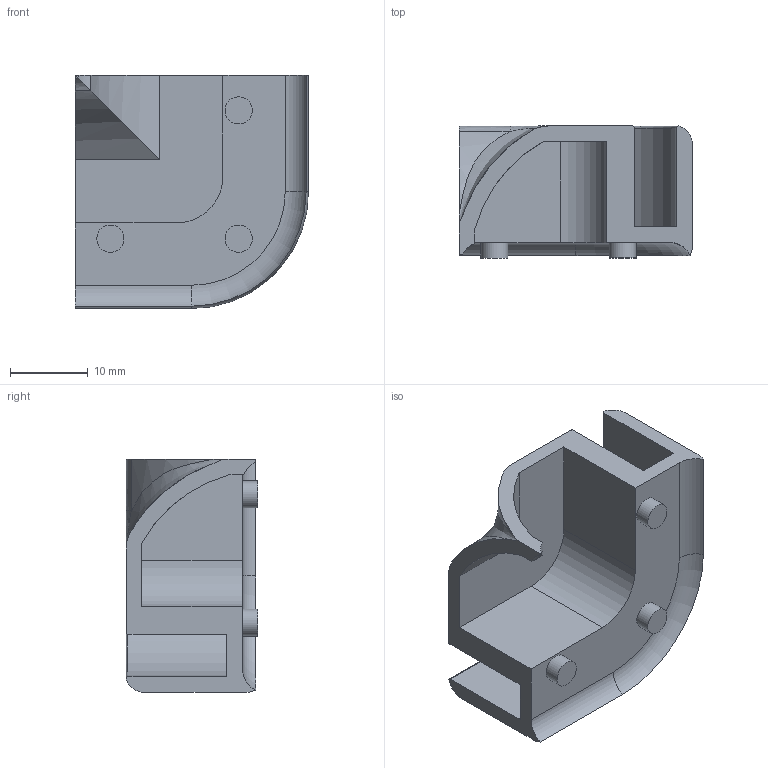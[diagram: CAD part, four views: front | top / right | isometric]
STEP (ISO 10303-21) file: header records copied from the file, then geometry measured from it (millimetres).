
FILE_DESCRIPTION (( 'STEP AP214' ), '1' );
FILE_NAME ('L15854.step', '2024-12-03T16:20:14', ( '' ), ( '' ), 'SwSTEP 2.0', 'SolidWorks 2023', '' );
FILE_SCHEMA (( 'AUTOMOTIVE_DESIGN' ));
Length unit declared in the file: millimetre
Products named in the file (1): L15854
Bounding box: 30.02 x 17 x 30.02 mm (x, y, z)
Volume: 4979 mm3; surface area: 4656.6 mm2
Topology: 1 solids, 1 shells, 53 faces, 128 edges, 80 vertices
Faces by surface type: cylinder 25, plane 19, torus 5, bspline 4
Full cylindrical faces by diameter (mm): 3.5 x3
Entity records: 1944 total; most frequent: CARTESIAN_POINT 712, DIRECTION 252, ORIENTED_EDGE 250, EDGE_CURVE 125, AXIS2_PLACEMENT_3D 96, VERTEX_POINT 80, VECTOR 60, LINE 60
